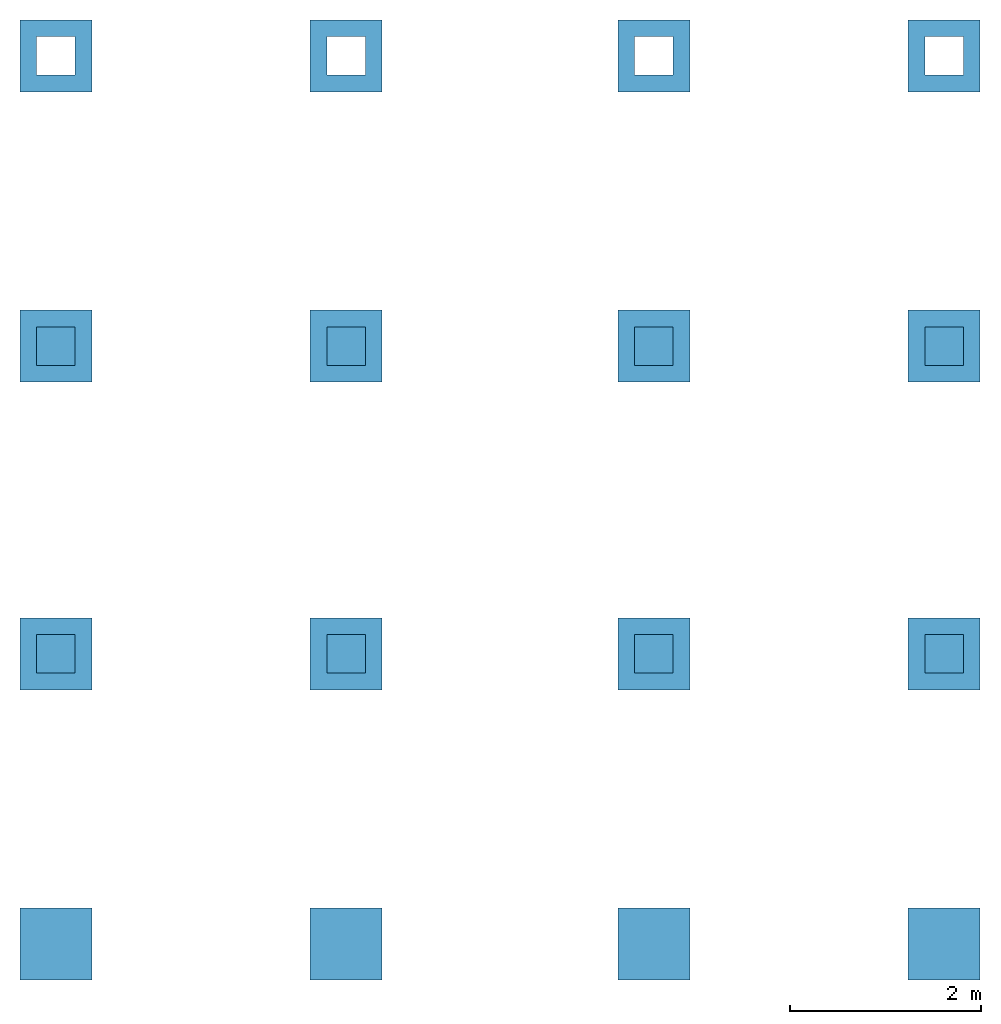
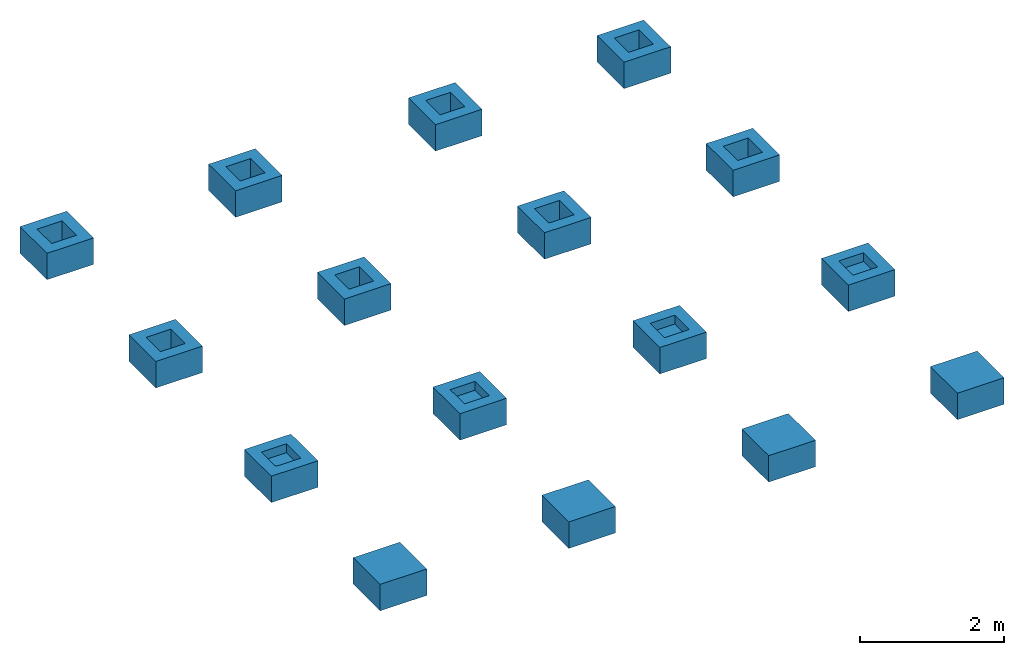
# One storey: 16 footings.
"""IFC2X3 building model written with IfcOpenShell, lengths in centimetres."""

import ifcopenshell
import ifcopenshell.guid

model = None  # the IFC model being written
_history = None  # IfcOwnerHistory: only IFC2X3 demands one
_inside = {}  # id of a spatial element -> (the spatial element, [elements in it])
_under = {}  # id of a project, library or spatial element -> (it, [spatial elements below it])
_declared = {}  # id of a project -> (the project, [libraries it declares])
_typed = {}  # id of a type object -> (the type object, [elements of that type])
_made_of = {}  # id of a material, layer set ... -> (it, [elements and type objects made of it])


def new_model(schema):
    """Start an empty IFC model of exactly this schema.

    Asked for "IFC4X3", IfcOpenShell would pick the latest addendum, in which some entities
    have other attributes; the version numbers below select the first issue.
    IFC2X3 requires an IfcOwnerHistory on every rooted entity: one is made here for all.
    """
    global model, _history
    if schema == "IFC4X3":
        model = ifcopenshell.file(schema_version=(4, 3, 0, 0))
    else:
        model = ifcopenshell.file(schema=schema)
    _inside.clear()
    _under.clear()
    _declared.clear()
    _typed.clear()
    _made_of.clear()
    _history = None
    if model.schema == "IFC2X3":
        org = make("IfcOrganization", Name="unknown")
        user = make(
            "IfcPersonAndOrganization",
            ThePerson=make("IfcPerson", FamilyName="unknown"),
            TheOrganization=org,
        )
        app = make(
            "IfcApplication",
            ApplicationDeveloper=org,
            Version="unknown",
            ApplicationFullName="unknown",
            ApplicationIdentifier="unknown",
        )
        _history = make(
            "IfcOwnerHistory",
            OwningUser=user,
            OwningApplication=app,
            ChangeAction="ADDED",
            CreationDate=0,
        )
    return model


def make(cls, **values):
    """One entity of the class cls with the attributes given. An attribute that is None is left unset."""
    return model.create_entity(
        cls, **{name: value for name, value in values.items() if value is not None}
    )


def entity(cls, *values):
    """Any entity or typed value of the class cls, its attributes in the order of the schema. None: left unset."""
    e = model.create_entity(cls)
    for i, value in enumerate(values):
        if value is not None:
            e[i] = value
    return e


def rooted(cls, **values):
    """An entity with a GlobalId (a new one), such as an element, a storey or a relation."""
    return make(cls, GlobalId=ifcopenshell.guid.new(), OwnerHistory=_history, **values)


def si_unit(unit_type, name, prefix=None):
    """IfcSIUnit, for example si_unit("LENGTHUNIT", "METRE", prefix="MILLI")."""
    return make("IfcSIUnit", UnitType=unit_type, Prefix=prefix, Name=name)


def converted_unit(unit_type, name, factor, base, dimensions=None, offset=None):
    """IfcConversionBasedUnit, such as the inch: factor (a typed value) times the base unit."""
    return make(
        "IfcConversionBasedUnit"
        if offset is None
        else "IfcConversionBasedUnitWithOffset",
        ConversionOffset=offset,
        Dimensions=None
        if dimensions is None
        else entity("IfcDimensionalExponents", *dimensions),
        UnitType=unit_type,
        Name=name,
        ConversionFactor=make(
            "IfcMeasureWithUnit", ValueComponent=factor, UnitComponent=base
        ),
    )


def derived_unit(unit_type, elements):
    """IfcDerivedUnit: a product of units, each with its exponent."""
    return make(
        "IfcDerivedUnit",
        Elements=[
            make("IfcDerivedUnitElement", Unit=unit, Exponent=power)
            for unit, power in elements
        ],
        UnitType=unit_type,
    )


def assignment(units):
    """IfcUnitAssignment: the units of a project."""
    return None if units is None else make("IfcUnitAssignment", Units=units)


def point(xyz):
    """IfcCartesianPoint."""
    return None if xyz is None else make("IfcCartesianPoint", Coordinates=xyz)


def direction(xyz):
    """IfcDirection."""
    return None if xyz is None else make("IfcDirection", DirectionRatios=xyz)


def frame(location, z_axis=None, x_axis=None):
    """IfcAxis2Placement3D, a coordinate frame: its origin and axes. An axis left out is left unset."""
    return make(
        "IfcAxis2Placement3D",
        Location=point(location),
        Axis=direction(z_axis),
        RefDirection=direction(x_axis),
    )


def frame_2d(location, x_axis=None):
    """IfcAxis2Placement2D, a coordinate frame in the plane: its origin and x axis."""
    return make(
        "IfcAxis2Placement2D", Location=point(location), RefDirection=direction(x_axis)
    )


def origin():
    """The frame at (0, 0, 0) with its axes left unset."""
    return frame((0.0, 0.0, 0.0))


def origin_2d_with_axis():
    """The frame at (0, 0) in the plane with the x axis (1, 0) written out."""
    return frame_2d((0.0, 0.0), x_axis=(1.0, 0.0))


def place(relative_to, where):
    """IfcLocalPlacement: puts the frame where relative to a parent placement (None: the world)."""
    return make(
        "IfcLocalPlacement", PlacementRelTo=relative_to, RelativePlacement=where
    )


def context(
    kind, dimensions, precision=None, world=None, true_north=None, identifier=None
):
    """IfcGeometricRepresentationContext, for example the 3D "Model" context."""
    return make(
        "IfcGeometricRepresentationContext",
        ContextIdentifier=identifier,
        ContextType=kind,
        CoordinateSpaceDimension=dimensions,
        Precision=precision,
        WorldCoordinateSystem=world,
        TrueNorth=true_north,
    )


def subcontext(parent, identifier, kind, view, scale=None):
    """IfcGeometricRepresentationSubContext, for example "Body" below "Model"."""
    return make(
        "IfcGeometricRepresentationSubContext",
        ContextIdentifier=identifier,
        ContextType=kind,
        ParentContext=parent,
        TargetScale=scale,
        TargetView=view,
    )


def project(units=None, contexts=None):
    """IfcProject with its units and contexts."""
    return rooted(
        "IfcProject",
        Name="project",
        RepresentationContexts=contexts,
        UnitsInContext=assignment(units),
    )


def spatial(cls, under=None, at=None, **own):
    """A site, building, storey or space (cls), placed at a placement, below another one or the project."""
    s = rooted(cls, ObjectPlacement=at, **own)
    if under is not None:
        _under.setdefault(under.id(), (under, []))[1].append(s)
    return s


def polyline(points):
    """IfcPolyline through the points."""
    return make("IfcPolyline", Points=[point(p) for p in points])


def profile(cls, at=None, kind="AREA", **sizes):
    """A parametric profile (cls). Its sizes go by their IFC names, for example OverallWidth=200.0."""
    return make(cls, ProfileType=kind, Position=at, **sizes)


def rectangle(**sizes):
    """IfcRectangleProfileDef."""
    return profile("IfcRectangleProfileDef", **sizes)


def outline(outer, holes=None, kind="AREA"):
    """IfcArbitraryClosedProfileDef: a profile drawn as a closed curve; with holes, ...WithVoids."""
    if holes is None:
        return make("IfcArbitraryClosedProfileDef", ProfileType=kind, OuterCurve=outer)
    return make(
        "IfcArbitraryProfileDefWithVoids",
        ProfileType=kind,
        OuterCurve=outer,
        InnerCurves=holes,
    )


def extrude(swept, where, along, depth):
    """IfcExtrudedAreaSolid: the profile swept, set in the frame where, extruded along a direction by depth."""
    return make(
        "IfcExtrudedAreaSolid",
        SweptArea=swept,
        Position=where,
        ExtrudedDirection=direction(along),
        Depth=depth,
    )


def faces_of(points, faces, orient=None, outer=None):
    """IfcFace entities. A face is a list of loops; a loop is a list of indices into points, from 0.

    orient and outer hold one flag for each loop. By default every Orientation is true, the
    first loop of a face is its IfcFaceOuterBound and the others are IfcFaceBound.
    """
    made = []
    for i, loops in enumerate(faces):
        bounds = []
        for j, loop in enumerate(loops):
            is_outer = j == 0 if outer is None else outer[i][j]
            bounds.append(
                make(
                    "IfcFaceOuterBound" if is_outer else "IfcFaceBound",
                    Bound=make("IfcPolyLoop", Polygon=[points[k] for k in loop]),
                    Orientation=True if orient is None else orient[i][j],
                )
            )
        made.append(make("IfcFace", Bounds=bounds))
    return made


def faceted_brep(points, faces, orient=None, outer=None, voids=None):
    """IfcFacetedBrep: a solid bounded by flat faces; with voids (closed shells), ...WithVoids."""
    shared = [point(p) for p in points]
    hull = make("IfcClosedShell", CfsFaces=faces_of(shared, faces, orient, outer))
    if voids is None:
        return make("IfcFacetedBrep", Outer=hull)
    return make(
        "IfcFacetedBrepWithVoids",
        Outer=hull,
        Voids=[
            make(cls, CfsFaces=faces_of(shared, fs, o, b)) for cls, fs, o, b in voids
        ],
    )


def shape(context_of_items, identifier, shape_type, items):
    """IfcShapeRepresentation: the items that make up one representation, for example the "Body"."""
    return make(
        "IfcShapeRepresentation",
        ContextOfItems=context_of_items,
        RepresentationIdentifier=identifier,
        RepresentationType=shape_type,
        Items=items,
    )


def source(mapping_origin, context_of_items, identifier, shape_type, items):
    """IfcRepresentationMap: a shape defined once, which mapped items show again and again."""
    return make(
        "IfcRepresentationMap",
        MappingOrigin=mapping_origin,
        MappedRepresentation=shape(context_of_items, identifier, shape_type, items),
    )


def transform(
    local_origin,
    x_axis=None,
    y_axis=None,
    z_axis=None,
    scale=None,
    scale2=None,
    scale3=None,
    uniform=True,
):
    """IfcCartesianTransformationOperator3D, or its non-uniform kind. x_axis, y_axis, z_axis: its Axis1, 2, 3."""
    if uniform:
        return make(
            "IfcCartesianTransformationOperator3D",
            Axis1=direction(x_axis),
            Axis2=direction(y_axis),
            LocalOrigin=point(local_origin),
            Scale=scale,
            Axis3=direction(z_axis),
        )
    return make(
        "IfcCartesianTransformationOperator3DnonUniform",
        Axis1=direction(x_axis),
        Axis2=direction(y_axis),
        LocalOrigin=point(local_origin),
        Scale=scale,
        Axis3=direction(z_axis),
        Scale2=scale2,
        Scale3=scale3,
    )


def mapped(mapping_source, mapping_target):
    """IfcMappedItem: shows the shape of a source again, moved by a transform."""
    return make(
        "IfcMappedItem", MappingSource=mapping_source, MappingTarget=mapping_target
    )


def material(Name=None, Category=None):
    """IfcMaterial."""
    return make("IfcMaterial", Name=Name, Category=Category)


def made_of(thing, what):
    """Note that an element or type object is made of a material, layer set ...; save() writes the relation."""
    if what is not None:
        _made_of.setdefault(what.id(), (what, []))[1].append(thing)
    return thing


def type_object(cls, material=None, **own):
    """A type object (cls), such as IfcWallType, which elements share."""
    return made_of(rooted(cls, **own), material)


def type_shapes(of_type, sources):
    """Give a type object the sources (RepresentationMaps) that its elements show as mapped items."""
    of_type.RepresentationMaps = sources


def element(
    cls,
    number,
    at=None,
    inside=None,
    cuts=None,
    type_object=None,
    material=None,
    context=None,
    identifier="Body",
    shape_type=None,
    held_by="IfcProductDefinitionShape",
    body=None,
    shapes=None,
    **own,
):
    """One element of the class cls, such as IfcWall. Its Tag is "e" and its number.

    at: its placement. inside: the storey or other place that contains it. cuts: it is an
    opening in that element (IfcRelVoidsElement). A single representation is given by context,
    identifier, shape_type and body (its items); several are given by shapes. held_by: the class
    of the entity that holds the representations. save() writes the other relations.
    """
    e = rooted(cls, Tag="e%d" % number, ObjectPlacement=at, **own)
    if body is not None:
        shapes = [shape(context, identifier, shape_type, body)]
    if shapes is not None:
        e.Representation = make(held_by, Representations=shapes)
    if inside is not None:
        _inside.setdefault(inside.id(), (inside, []))[1].append(e)
    if cuts is not None:
        rooted(
            "IfcRelVoidsElement", RelatingBuildingElement=cuts, RelatedOpeningElement=e
        )
    if type_object is not None:
        _typed.setdefault(type_object.id(), (type_object, []))[1].append(e)
    return made_of(e, material)


def aggregate(whole, parts):
    """IfcRelAggregates: a whole, such as a stair, and the parts it consists of."""
    return rooted("IfcRelAggregates", RelatingObject=whole, RelatedObjects=parts)


def save(model, path):
    """Write the relations noted so far, then the file.

    IfcRelAggregates (storeys below a building ...), IfcRelContainedInSpatialStructure (elements
    in a storey), IfcRelDefinesByType, IfcRelAssociatesMaterial and IfcRelDeclares: one each for
    every whole, place, type object, material and project.
    """
    for whole, parts in _under.values():
        aggregate(whole, parts)
    for where, things in _inside.values():
        rooted(
            "IfcRelContainedInSpatialStructure",
            RelatedElements=things,
            RelatingStructure=where,
        )
    for kind, things in _typed.values():
        rooted("IfcRelDefinesByType", RelatedObjects=things, RelatingType=kind)
    for what, things in _made_of.values():
        rooted("IfcRelAssociatesMaterial", RelatedObjects=things, RelatingMaterial=what)
    for by, libraries in _declared.values():
        rooted("IfcRelDeclares", RelatingContext=by, RelatedDefinitions=libraries)
    model.write(path)


model = new_model("IFC2X3")

# Units and contexts
model_context = context("Model", 3, precision=0.001, world=origin(), true_north=direction((6.123233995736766e-17, 1.0)))
body_context = subcontext(model_context, "Body", "Model", "MODEL_VIEW")
ifc_project = project(units=[si_unit("LENGTHUNIT", "METRE", prefix="CENTI"), si_unit("AREAUNIT", "SQUARE_METRE"), si_unit("VOLUMEUNIT", "CUBIC_METRE"), converted_unit("PLANEANGLEUNIT", "DEGREE", entity("IfcPlaneAngleMeasure", 0.017453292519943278), si_unit("PLANEANGLEUNIT", "RADIAN"), dimensions=[0, 0, 0, 0, 0, 0, 0]), si_unit("POWERUNIT", "WATT"), derived_unit("USERDEFINED", [(si_unit("MASSUNIT", "GRAM", prefix="KILO"), 1), (si_unit("TIMEUNIT", "SECOND"), -3)]), si_unit("FORCEUNIT", "NEWTON", prefix="KILO"), derived_unit("THERMALTRANSMITTANCEUNIT", [(si_unit("MASSUNIT", "GRAM", prefix="KILO"), 1), (si_unit("TIMEUNIT", "SECOND"), -3), (si_unit("THERMODYNAMICTEMPERATUREUNIT", "KELVIN"), -1)]), derived_unit("USERDEFINED", [(si_unit("MASSUNIT", "GRAM", prefix="KILO"), 1), (si_unit("THERMODYNAMICTEMPERATUREUNIT", "KELVIN"), -1), (si_unit("TIMEUNIT", "SECOND"), -2)]), derived_unit("THERMALRESISTANCEUNIT", [(si_unit("MASSUNIT", "GRAM", prefix="KILO"), -1), (si_unit("TIMEUNIT", "SECOND"), 3), (si_unit("THERMODYNAMICTEMPERATUREUNIT", "KELVIN"), 1)]), derived_unit("USERDEFINED", [(si_unit("MASSUNIT", "GRAM", prefix="KILO"), -1), (si_unit("TIMEUNIT", "SECOND"), 3), (si_unit("LENGTHUNIT", "METRE"), -2), (si_unit("LUMINOUSFLUXUNIT", "LUMEN"), 1)]), si_unit("LUMINOUSFLUXUNIT", "LUMEN")], contexts=[model_context])

# Site, building, storey
site_placement = place(None, origin())
site = spatial("IfcSite", under=ifc_project, at=site_placement, Name="Default", CompositionType="ELEMENT")
building_placement = place(site_placement, origin())
building = spatial("IfcBuilding", under=site, at=building_placement, Name="Workshop Hbaitáculo - Refugio Tierra del Fuego", CompositionType="ELEMENT")
storey_placement = place(building_placement, origin())
storey = spatial("IfcBuildingStorey", under=building, at=storey_placement, Name="NTN", CompositionType="ELEMENT", Elevation=0.0)

# Footings
ifc_material = material(Name="Concrete, Cast-in-Place gray")
type_product_1 = type_object("IfcTypeProduct", Name="Pile Cap:TBC-ARQ-Zapata aislada HA 75x75x45cm", material=ifc_material)
shared_shape_1 = source(origin(), body_context, "Body", "SweptSolid", [
    extrude(rectangle(XDim=74.99999999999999, YDim=74.99999999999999, at=origin_2d_with_axis()), frame((0.0, 0.0, -45.0), z_axis=(0.0, 0.0, 1.0), x_axis=(-1.0, 0.0, 0.0)), (0.0, 0.0, 1.0), 45.0),
])
type_shapes(type_product_1, [shared_shape_1])
for number, where, name in (
    (1, (914.0000000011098, -605.0, -140.0), "Pile Cap:TBC-ARQ-Zapata aislada HA 75x75x45cm"),
    (2, (610.7500000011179, -605.0, -140.0), "Pile Cap:TBC-ARQ-Zapata aislada HA 75x75x45cm"),
    (3, (289.2499999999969, -605.0, -140.0), "Pile Cap:TBC-ARQ-Zapata aislada HA 75x75x45cm"),
    (4, (-14.0, -605.0, -140.0), "Pile Cap:TBC-ARQ-Zapata aislada HA 75x75x45cm"),
):
    element("IfcFooting", number, at=place(storey_placement, frame(where)), inside=storey, type_object=type_product_1, material=ifc_material, Name=name, ObjectType="Pile Cap:TBC-ARQ-Zapata aislada HA 75x75x45cm", PredefinedType="PAD_FOOTING", context=body_context, shape_type="MappedRepresentation", body=[
        mapped(shared_shape_1, transform((0.0, 0.0, 0.0), scale=1.0)),
    ])
type_product_2 = type_object("IfcTypeProduct", Name="Pile Cap:TBC-ARQ-Zapata aislada HA 75x75x45cm", material=ifc_material)
shared_shape_2 = source(origin(), body_context, "Body", "Brep", [
    faceted_brep([(951.5000000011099, -264.25000000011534, 0.0), (876.50000000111, -264.25000000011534, 0.0), (876.50000000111, -339.25000000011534, 0.0), (951.5000000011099, -339.25000000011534, 0.0), (894.00000000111, -281.75000000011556, 0.0), (934.0000000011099, -281.75000000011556, 0.0), (934.0000000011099, -321.75000000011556, 0.0), (894.00000000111, -321.75000000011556, 0.0), (951.5000000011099, -264.25000000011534, -45.0), (951.5000000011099, -339.25000000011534, -45.0), (876.50000000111, -339.25000000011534, -45.0), (876.50000000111, -264.25000000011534, -45.0), (934.00000000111, -321.75000000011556, -15.0), (934.00000000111, -281.75000000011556, -15.0), (894.00000000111, -281.75000000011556, -15.0), (894.00000000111, -321.75000000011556, -15.0)], [[[0, 1, 2, 3], [4, 5, 6, 7]], [[8, 9, 10, 11]], [[1, 0, 8, 11]], [[2, 1, 11, 10]], [[3, 2, 10, 9]], [[0, 3, 9, 8]], [[12, 13, 14, 15]], [[14, 13, 5, 4]], [[15, 14, 4, 7]], [[12, 15, 7, 6]], [[13, 12, 6, 5]]]),
])
type_shapes(type_product_2, [shared_shape_2])
footing_1_placement = place(storey_placement, frame((0.0, 0.0, -140.0)))
element("IfcFooting", 5, at=footing_1_placement, inside=storey, type_object=type_product_2, material=ifc_material, Name="Pile Cap:TBC-ARQ-Zapata aislada HA 75x75x45cm", ObjectType="Pile Cap:TBC-ARQ-Zapata aislada HA 75x75x45cm", PredefinedType="PAD_FOOTING", context=body_context, shape_type="MappedRepresentation", body=[
    mapped(shared_shape_2, transform((0.0, 0.0, 0.0), scale=1.0)),
])
type_product_3 = type_object("IfcTypeProduct", Name="Pile Cap:TBC-ARQ-Zapata aislada HA 75x75x45cm", material=ifc_material)
shared_shape_3 = source(origin(), body_context, "Body", "Brep", [
    faceted_brep([(951.5000000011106, 57.249999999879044, 0.0), (876.5000000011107, 57.249999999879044, 0.0), (876.5000000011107, -17.75000000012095, 0.0), (951.5000000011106, -17.75000000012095, 0.0), (894.0000000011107, 39.74999999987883, 0.0), (934.0000000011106, 39.74999999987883, 0.0), (934.0000000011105, -0.25000000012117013, 0.0), (894.0000000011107, -0.25000000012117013, 0.0), (951.5000000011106, 57.249999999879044, -45.0), (951.5000000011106, -17.75000000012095, -45.0), (876.5000000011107, -17.75000000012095, -45.0), (876.5000000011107, 57.249999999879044, -45.0), (934.0000000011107, -0.25000000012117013, -35.0), (934.0000000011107, 39.74999999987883, -35.0), (894.0000000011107, 39.74999999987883, -35.0), (894.0000000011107, -0.25000000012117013, -35.0)], [[[0, 1, 2, 3], [4, 5, 6, 7]], [[8, 9, 10, 11]], [[1, 0, 8, 11]], [[2, 1, 11, 10]], [[3, 2, 10, 9]], [[0, 3, 9, 8]], [[12, 13, 14, 15]], [[14, 13, 5, 4]], [[15, 14, 4, 7]], [[12, 15, 7, 6]], [[13, 12, 6, 5]]]),
])
type_shapes(type_product_3, [shared_shape_3])
footing_2_placement = place(storey_placement, frame((0.0, 0.0, -140.0)))
element("IfcFooting", 6, at=footing_2_placement, inside=storey, type_object=type_product_3, material=ifc_material, Name="Pile Cap:TBC-ARQ-Zapata aislada HA 75x75x45cm", ObjectType="Pile Cap:TBC-ARQ-Zapata aislada HA 75x75x45cm", PredefinedType="PAD_FOOTING", context=body_context, shape_type="MappedRepresentation", body=[
    mapped(shared_shape_3, transform((0.0, 0.0, 0.0), scale=1.0)),
])
type_product_4 = type_object("IfcTypeProduct", Name="Pile Cap:TBC-ARQ-Zapata aislada HA 75x75x45cm", material=ifc_material)
shared_shape_4 = source(origin(), body_context, "Body", "SweptSolid", [
    extrude(outline(polyline([(-37.49999999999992, -37.50000000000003), (37.50000000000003, -37.50000000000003), (37.50000000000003, 37.49999999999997), (-37.49999999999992, 37.49999999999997), (-37.49999999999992, -37.50000000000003)]), holes=[polyline([(-20.0, -20.0), (-20.0, 20.0), (20.0, 20.0), (20.0, -20.0), (-20.0, -20.0)])]), frame((914.0000000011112, 323.0, -185.0), z_axis=(0.0, 0.0, 1.0), x_axis=(-1.0, 0.0, 0.0)), (0.0, 0.0, 1.0), 45.0),
])
type_shapes(type_product_4, [shared_shape_4])
footing_3_placement = place(storey_placement, origin())
element("IfcFooting", 7, at=footing_3_placement, inside=storey, type_object=type_product_4, material=ifc_material, Name="Pile Cap:TBC-ARQ-Zapata aislada HA 75x75x45cm", ObjectType="Pile Cap:TBC-ARQ-Zapata aislada HA 75x75x45cm", PredefinedType="PAD_FOOTING", context=body_context, shape_type="MappedRepresentation", body=[
    mapped(shared_shape_4, transform((0.0, 0.0, 0.0), scale=1.0)),
])
type_product_5 = type_object("IfcTypeProduct", Name="Pile Cap:TBC-ARQ-Zapata aislada HA 75x75x45cm", material=ifc_material)
shared_shape_5 = source(origin(), body_context, "Body", "Brep", [
    faceted_brep([(648.250000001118, -264.25000000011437, 0.0), (573.2500000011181, -264.25000000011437, 0.0), (573.2500000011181, -339.25000000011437, 0.0), (648.250000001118, -339.25000000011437, 0.0), (590.7500000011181, -281.7500000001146, 0.0), (630.750000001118, -281.7500000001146, 0.0), (630.750000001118, -321.7500000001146, 0.0), (590.7500000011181, -321.7500000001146, 0.0), (648.250000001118, -264.25000000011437, -45.0), (648.250000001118, -339.25000000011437, -45.0), (573.2500000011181, -339.25000000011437, -45.0), (573.2500000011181, -264.25000000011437, -45.0), (630.7500000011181, -321.7500000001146, -15.0), (630.7500000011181, -281.7500000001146, -15.0), (590.7500000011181, -281.7500000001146, -15.0), (590.7500000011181, -321.7500000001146, -15.0)], [[[0, 1, 2, 3], [4, 5, 6, 7]], [[8, 9, 10, 11]], [[1, 0, 8, 11]], [[2, 1, 11, 10]], [[3, 2, 10, 9]], [[0, 3, 9, 8]], [[12, 13, 14, 15]], [[14, 13, 5, 4]], [[15, 14, 4, 7]], [[12, 15, 7, 6]], [[13, 12, 6, 5]]]),
])
type_shapes(type_product_5, [shared_shape_5])
footing_4_placement = place(storey_placement, frame((0.0, 0.0, -140.0)))
element("IfcFooting", 8, at=footing_4_placement, inside=storey, type_object=type_product_5, material=ifc_material, Name="Pile Cap:TBC-ARQ-Zapata aislada HA 75x75x45cm", ObjectType="Pile Cap:TBC-ARQ-Zapata aislada HA 75x75x45cm", PredefinedType="PAD_FOOTING", context=body_context, shape_type="MappedRepresentation", body=[
    mapped(shared_shape_5, transform((0.0, 0.0, 0.0), scale=1.0)),
])
type_product_6 = type_object("IfcTypeProduct", Name="Pile Cap:TBC-ARQ-Zapata aislada HA 75x75x45cm", material=ifc_material)
shared_shape_6 = source(origin(), body_context, "Body", "Brep", [
    faceted_brep([(648.2500000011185, 57.24999999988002, 0.0), (573.2500000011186, 57.24999999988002, 0.0), (573.2500000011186, -17.75000000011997, 0.0), (648.2500000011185, -17.75000000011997, 0.0), (590.7500000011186, 39.749999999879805, 0.0), (630.7500000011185, 39.749999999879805, 0.0), (630.7500000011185, -0.2500000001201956, 0.0), (590.7500000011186, -0.2500000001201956, 0.0), (648.2500000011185, 57.24999999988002, -45.0), (648.2500000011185, -17.75000000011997, -45.0), (573.2500000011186, -17.75000000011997, -45.0), (573.2500000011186, 57.24999999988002, -45.0), (630.7500000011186, -0.2500000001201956, -35.0), (630.7500000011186, 39.749999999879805, -35.0), (590.7500000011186, 39.749999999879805, -35.0), (590.7500000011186, -0.2500000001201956, -35.0)], [[[0, 1, 2, 3], [4, 5, 6, 7]], [[8, 9, 10, 11]], [[1, 0, 8, 11]], [[2, 1, 11, 10]], [[3, 2, 10, 9]], [[0, 3, 9, 8]], [[12, 13, 14, 15]], [[14, 13, 5, 4]], [[15, 14, 4, 7]], [[12, 15, 7, 6]], [[13, 12, 6, 5]]]),
])
type_shapes(type_product_6, [shared_shape_6])
footing_5_placement = place(storey_placement, frame((0.0, 0.0, -140.0)))
element("IfcFooting", 9, at=footing_5_placement, inside=storey, type_object=type_product_6, material=ifc_material, Name="Pile Cap:TBC-ARQ-Zapata aislada HA 75x75x45cm", ObjectType="Pile Cap:TBC-ARQ-Zapata aislada HA 75x75x45cm", PredefinedType="PAD_FOOTING", context=body_context, shape_type="MappedRepresentation", body=[
    mapped(shared_shape_6, transform((0.0, 0.0, 0.0), scale=1.0)),
])
type_product_7 = type_object("IfcTypeProduct", Name="Pile Cap:TBC-ARQ-Zapata aislada HA 75x75x45cm", material=ifc_material)
shared_shape_7 = source(origin(), body_context, "Body", "SweptSolid", [
    extrude(outline(polyline([(-37.49999999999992, -37.49999999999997), (37.50000000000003, -37.49999999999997), (37.50000000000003, 37.50000000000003), (-37.49999999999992, 37.50000000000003), (-37.49999999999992, -37.49999999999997)]), holes=[polyline([(-20.0, -20.0), (-20.0, 20.0), (20.0, 20.0), (20.0, -20.0), (-20.0, -20.0)])]), frame((610.750000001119, 323.0, -185.0), z_axis=(0.0, 0.0, 1.0), x_axis=(-1.0, 0.0, 0.0)), (0.0, 0.0, 1.0), 45.0),
])
type_shapes(type_product_7, [shared_shape_7])
footing_6_placement = place(storey_placement, origin())
element("IfcFooting", 10, at=footing_6_placement, inside=storey, type_object=type_product_7, material=ifc_material, Name="Pile Cap:TBC-ARQ-Zapata aislada HA 75x75x45cm", ObjectType="Pile Cap:TBC-ARQ-Zapata aislada HA 75x75x45cm", PredefinedType="PAD_FOOTING", context=body_context, shape_type="MappedRepresentation", body=[
    mapped(shared_shape_7, transform((0.0, 0.0, 0.0), scale=1.0)),
])
type_product_8 = type_object("IfcTypeProduct", Name="Pile Cap:TBC-ARQ-Zapata aislada HA 75x75x45cm", material=ifc_material)
shared_shape_8 = source(origin(), body_context, "Body", "Brep", [
    faceted_brep([(326.74999999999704, -264.2500000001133, 0.0), (251.74999999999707, -264.2500000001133, 0.0), (251.74999999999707, -339.2500000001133, 0.0), (326.74999999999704, -339.2500000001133, 0.0), (269.24999999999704, -281.7500000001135, 0.0), (309.24999999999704, -281.7500000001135, 0.0), (309.24999999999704, -321.7500000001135, 0.0), (269.24999999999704, -321.7500000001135, 0.0), (326.74999999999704, -264.2500000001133, -45.0), (326.74999999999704, -339.2500000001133, -45.0), (251.74999999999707, -339.2500000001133, -45.0), (251.74999999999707, -264.2500000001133, -45.0), (309.24999999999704, -321.7500000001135, -15.0), (309.24999999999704, -281.7500000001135, -15.0), (269.24999999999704, -281.7500000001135, -15.0), (269.24999999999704, -321.7500000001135, -15.0)], [[[0, 1, 2, 3], [4, 5, 6, 7]], [[8, 9, 10, 11]], [[1, 0, 8, 11]], [[2, 1, 11, 10]], [[3, 2, 10, 9]], [[0, 3, 9, 8]], [[12, 13, 14, 15]], [[14, 13, 5, 4]], [[15, 14, 4, 7]], [[12, 15, 7, 6]], [[13, 12, 6, 5]]]),
])
type_shapes(type_product_8, [shared_shape_8])
footing_7_placement = place(storey_placement, frame((0.0, 0.0, -140.0)))
element("IfcFooting", 11, at=footing_7_placement, inside=storey, type_object=type_product_8, material=ifc_material, Name="Pile Cap:TBC-ARQ-Zapata aislada HA 75x75x45cm", ObjectType="Pile Cap:TBC-ARQ-Zapata aislada HA 75x75x45cm", PredefinedType="PAD_FOOTING", context=body_context, shape_type="MappedRepresentation", body=[
    mapped(shared_shape_8, transform((0.0, 0.0, 0.0), scale=1.0)),
])
type_product_9 = type_object("IfcTypeProduct", Name="Pile Cap:TBC-ARQ-Zapata aislada HA 75x75x45cm", material=ifc_material)
shared_shape_9 = source(origin(), body_context, "Body", "Brep", [
    faceted_brep([(326.7499999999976, 57.24999999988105, 0.0), (251.7499999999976, 57.24999999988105, 0.0), (251.7499999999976, -17.750000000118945, 0.0), (326.7499999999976, -17.750000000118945, 0.0), (269.24999999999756, 39.749999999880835, 0.0), (309.2499999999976, 39.749999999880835, 0.0), (309.2499999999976, -0.25000000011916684, 0.0), (269.24999999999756, -0.25000000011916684, 0.0), (326.7499999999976, 57.24999999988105, -45.0), (326.7499999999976, -17.750000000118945, -45.0), (251.7499999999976, -17.750000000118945, -45.0), (251.7499999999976, 57.24999999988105, -45.0), (309.2499999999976, -0.25000000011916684, -35.0), (309.2499999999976, 39.749999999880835, -35.0), (269.24999999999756, 39.749999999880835, -35.0), (269.24999999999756, -0.25000000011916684, -35.0)], [[[0, 1, 2, 3], [4, 5, 6, 7]], [[8, 9, 10, 11]], [[1, 0, 8, 11]], [[2, 1, 11, 10]], [[3, 2, 10, 9]], [[0, 3, 9, 8]], [[12, 13, 14, 15]], [[14, 13, 5, 4]], [[15, 14, 4, 7]], [[12, 15, 7, 6]], [[13, 12, 6, 5]]]),
])
type_shapes(type_product_9, [shared_shape_9])
footing_8_placement = place(storey_placement, frame((0.0, 0.0, -140.0)))
element("IfcFooting", 12, at=footing_8_placement, inside=storey, type_object=type_product_9, material=ifc_material, Name="Pile Cap:TBC-ARQ-Zapata aislada HA 75x75x45cm", ObjectType="Pile Cap:TBC-ARQ-Zapata aislada HA 75x75x45cm", PredefinedType="PAD_FOOTING", context=body_context, shape_type="MappedRepresentation", body=[
    mapped(shared_shape_9, transform((0.0, 0.0, 0.0), scale=1.0)),
])
type_product_10 = type_object("IfcTypeProduct", Name="Pile Cap:TBC-ARQ-Zapata aislada HA 75x75x45cm", material=ifc_material)
shared_shape_10 = source(origin(), body_context, "Body", "SweptSolid", [
    extrude(outline(polyline([(-37.50000000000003, -37.49999999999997), (37.49999999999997, -37.49999999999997), (37.49999999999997, 37.50000000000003), (-37.50000000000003, 37.50000000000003), (-37.50000000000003, -37.49999999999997)]), holes=[polyline([(-20.0, -20.0), (-20.0, 20.0), (20.0, 20.0), (20.0, -20.0), (-20.0, -20.0)])]), frame((289.249999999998, 323.0, -185.0), z_axis=(0.0, 0.0, 1.0), x_axis=(-1.0, 0.0, 0.0)), (0.0, 0.0, 1.0), 45.0),
])
type_shapes(type_product_10, [shared_shape_10])
footing_9_placement = place(storey_placement, origin())
element("IfcFooting", 13, at=footing_9_placement, inside=storey, type_object=type_product_10, material=ifc_material, Name="Pile Cap:TBC-ARQ-Zapata aislada HA 75x75x45cm", ObjectType="Pile Cap:TBC-ARQ-Zapata aislada HA 75x75x45cm", PredefinedType="PAD_FOOTING", context=body_context, shape_type="MappedRepresentation", body=[
    mapped(shared_shape_10, transform((0.0, 0.0, 0.0), scale=1.0)),
])
type_product_11 = type_object("IfcTypeProduct", Name="Pile Cap:TBC-ARQ-Zapata aislada HA 75x75x45cm", material=ifc_material)
shared_shape_11 = source(origin(), body_context, "Body", "Brep", [
    faceted_brep([(23.500000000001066, -264.2500000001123, 0.0), (-51.49999999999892, -264.2500000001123, 0.0), (-51.49999999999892, -339.2500000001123, 0.0), (23.500000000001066, -339.2500000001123, 0.0), (-34.0, -281.75000000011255, 0.0), (6.0, -281.75000000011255, 0.0), (6.0, -321.75000000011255, 0.0), (-34.0, -321.75000000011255, 0.0), (23.500000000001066, -264.2500000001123, -45.0), (23.500000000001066, -339.2500000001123, -45.0), (-51.49999999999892, -339.2500000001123, -45.0), (-51.49999999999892, -264.2500000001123, -45.0), (6.0, -321.75000000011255, -15.0), (6.0, -281.75000000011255, -15.0), (-34.0, -281.75000000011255, -15.0), (-34.0, -321.75000000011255, -15.0)], [[[0, 1, 2, 3], [4, 5, 6, 7]], [[8, 9, 10, 11]], [[1, 0, 8, 11]], [[2, 1, 11, 10]], [[3, 2, 10, 9]], [[0, 3, 9, 8]], [[12, 13, 14, 15]], [[14, 13, 5, 4]], [[15, 14, 4, 7]], [[12, 15, 7, 6]], [[13, 12, 6, 5]]]),
])
type_shapes(type_product_11, [shared_shape_11])
footing_10_placement = place(storey_placement, frame((0.0, 0.0, -140.0)))
element("IfcFooting", 14, at=footing_10_placement, inside=storey, type_object=type_product_11, material=ifc_material, Name="Pile Cap:TBC-ARQ-Zapata aislada HA 75x75x45cm", ObjectType="Pile Cap:TBC-ARQ-Zapata aislada HA 75x75x45cm", PredefinedType="PAD_FOOTING", context=body_context, shape_type="MappedRepresentation", body=[
    mapped(shared_shape_11, transform((0.0, 0.0, 0.0), scale=1.0)),
])
type_product_12 = type_object("IfcTypeProduct", Name="Pile Cap:TBC-ARQ-Zapata aislada HA 75x75x45cm", material=ifc_material)
shared_shape_12 = source(origin(), body_context, "Body", "Brep", [
    faceted_brep([(23.50000000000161, 57.24999999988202, 0.0), (-51.49999999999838, 57.24999999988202, 0.0), (-51.49999999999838, -17.75000000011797, 0.0), (23.50000000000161, -17.75000000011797, 0.0), (-34.0, 39.74999999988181, 0.0), (6.0, 39.74999999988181, 0.0), (6.0, -0.25000000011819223, 0.0), (-34.0, -0.25000000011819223, 0.0), (23.50000000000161, 57.24999999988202, -45.0), (23.50000000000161, -17.75000000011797, -45.0), (-51.49999999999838, -17.75000000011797, -45.0), (-51.49999999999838, 57.24999999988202, -45.0), (6.0, -0.25000000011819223, -35.0), (6.0, 39.74999999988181, -35.0), (-34.0, 39.74999999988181, -35.0), (-34.0, -0.25000000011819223, -35.0)], [[[0, 1, 2, 3], [4, 5, 6, 7]], [[8, 9, 10, 11]], [[1, 0, 8, 11]], [[2, 1, 11, 10]], [[3, 2, 10, 9]], [[0, 3, 9, 8]], [[12, 13, 14, 15]], [[14, 13, 5, 4]], [[15, 14, 4, 7]], [[12, 15, 7, 6]], [[13, 12, 6, 5]]]),
])
type_shapes(type_product_12, [shared_shape_12])
footing_11_placement = place(storey_placement, frame((0.0, 0.0, -140.0)))
element("IfcFooting", 15, at=footing_11_placement, inside=storey, type_object=type_product_12, material=ifc_material, Name="Pile Cap:TBC-ARQ-Zapata aislada HA 75x75x45cm", ObjectType="Pile Cap:TBC-ARQ-Zapata aislada HA 75x75x45cm", PredefinedType="PAD_FOOTING", context=body_context, shape_type="MappedRepresentation", body=[
    mapped(shared_shape_12, transform((0.0, 0.0, 0.0), scale=1.0)),
])
type_product_13 = type_object("IfcTypeProduct", Name="Pile Cap:TBC-ARQ-Zapata aislada HA 75x75x45cm", material=ifc_material)
shared_shape_13 = source(origin(), body_context, "Body", "SweptSolid", [
    extrude(outline(polyline([(-37.49999999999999, -37.50000000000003), (37.49999999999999, -37.50000000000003), (37.49999999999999, 37.49999999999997), (-37.49999999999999, 37.49999999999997), (-37.49999999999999, -37.50000000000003)]), holes=[polyline([(-20.0, -20.0), (-20.0, 20.0), (20.0, 20.0), (20.0, -20.0), (-20.0, -20.0)])]), frame((-14.0, 323.0, -185.0), z_axis=(0.0, 0.0, 1.0), x_axis=(-1.0, 0.0, 0.0)), (0.0, 0.0, 1.0), 45.0),
])
type_shapes(type_product_13, [shared_shape_13])
footing_12_placement = place(storey_placement, origin())
element("IfcFooting", 16, at=footing_12_placement, inside=storey, type_object=type_product_13, material=ifc_material, Name="Pile Cap:TBC-ARQ-Zapata aislada HA 75x75x45cm", ObjectType="Pile Cap:TBC-ARQ-Zapata aislada HA 75x75x45cm", PredefinedType="PAD_FOOTING", context=body_context, shape_type="MappedRepresentation", body=[
    mapped(shared_shape_13, transform((0.0, 0.0, 0.0), scale=1.0)),
])

save(model, "model.ifc")
